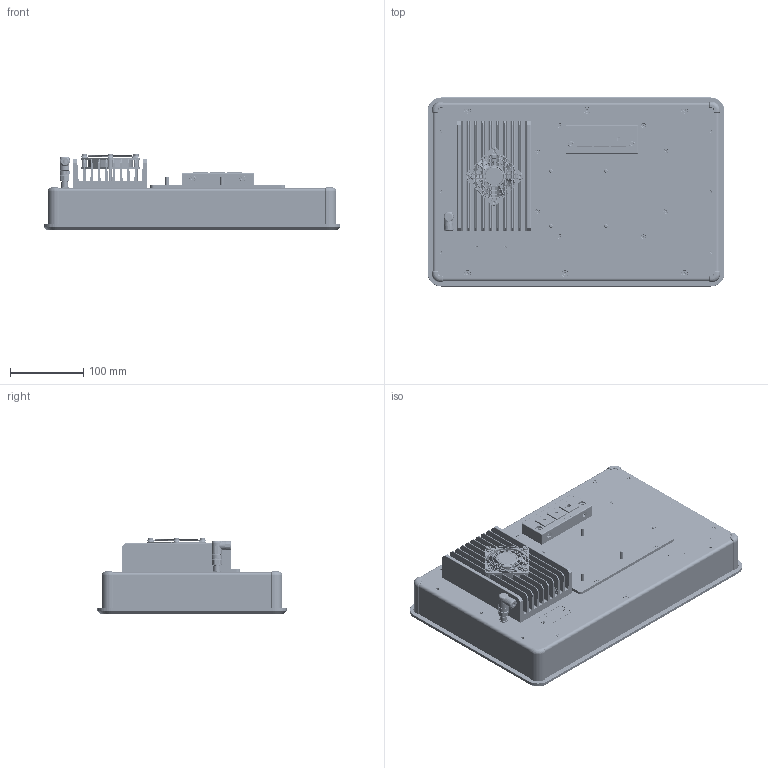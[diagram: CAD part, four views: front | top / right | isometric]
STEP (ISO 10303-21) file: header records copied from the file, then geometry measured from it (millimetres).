
FILE_DESCRIPTION(/* description */ (''),/* implementation_level */ '2;1');
FILE_NAME(/* name */ 'D:\Modelle vereinfacht\notion.D3\15,6 Zoll\778-41945-00\778-41945-00_EXTERN.stp',/* time_stamp */ '2025-08-01T08:55:56+02:00',/* author */ ('Blessing'),/* organization */ (''),/* preprocessor_version */ 'ST-DEVELOPER v18.1',/* originating_system */ 'Autodesk Inventor 2021',/* authorisation */ '');
FILE_SCHEMA (('AUTOMOTIVE_DESIGN { 1 0 10303 214 3 1 1 }'));
Products named in the file (6): Baugruppe6; Baugruppe5_Shrinkwrap_1; Baugruppe23_Shrinkwrap_1; 64-025-081_IPT_Extern; Baugruppe18_Shrinkwrap_1; 778-90184_IAM_000_Shrinkwrap_2
Assembly tree (5 placements, depth 2):
  Baugruppe6
    Baugruppe5_Shrinkwrap_1
    Baugruppe23_Shrinkwrap_1
    64-025-081_IPT_Extern
    Baugruppe18_Shrinkwrap_1
    778-90184_IAM_000_Shrinkwrap_2
Bounding box: 404.9 x 257.8 x 103.1 mm (x, y, z)
Volume: 5490554.8 mm3; surface area: 760085.4 mm2
Topology: 30 solids, 35 shells, 13533 faces, 37865 edges, 24660 vertices
Faces by surface type: plane 8823, cylinder 2923, bspline 1065, cone 539, torus 130, sphere 53
Full cylindrical faces by diameter (mm): 0.4 x36, 0.457 x1, 0.5 x6, 0.65 x16, 0.8 x4, 0.95 x32, 1 x3, 1.1 x7, 1.2 x26, 1.4 x3, 1.751 x1, 2.156 x2, 2.459 x24, 2.794 x2, 2.8 x4, 3 x22, 3.15 x1, 3.2 x2, 3.242 x10, 3.5 x22, 4 x10, 4.134 x2, 4.22 x8, 4.3 x12, 4.5 x12, 4.7 x2, 4.767 x6, 4.8 x2, 5 x15, 5.38 x6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
Entity records: 502185 total; most frequent: CARTESIAN_POINT 145017, ORIENTED_EDGE 75642, DIRECTION 65305, EDGE_CURVE 37822, LINE 27763, VECTOR 27763, VERTEX_POINT 24688, AXIS2_PLACEMENT_3D 18771
